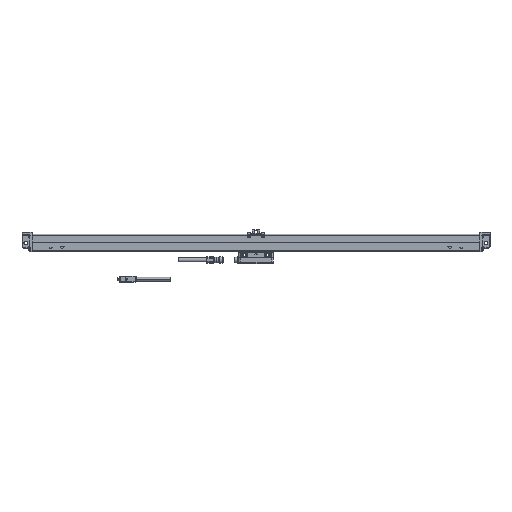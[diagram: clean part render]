
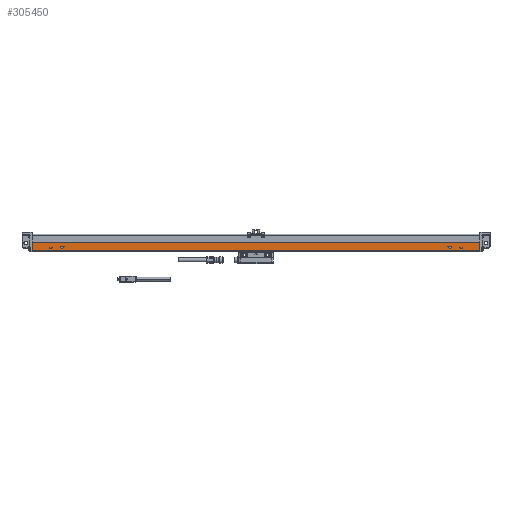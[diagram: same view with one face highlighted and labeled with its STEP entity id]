
A CAD part, top view. The second image highlights one B-rep face of the part: STEP entity #305450.
In plain terms, the highlighted planar face has unit normal (0, 0, 1).
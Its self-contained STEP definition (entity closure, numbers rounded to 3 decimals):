
#267860=CARTESIAN_POINT('',(1574.,62.11,34.29));
#267870=VERTEX_POINT('',#267860);
#268040=CARTESIAN_POINT('',(1577.464,68.11,34.29));
#268050=VERTEX_POINT('',#268040);
#268080=CARTESIAN_POINT('',(1590.535,90.75,34.29));
#268090=DIRECTION('',(0.5,0.866,0.));
#268100=VECTOR('',#268090,1.);
#268110=LINE('',#268080,#268100);
#268120=EDGE_CURVE('',#267870,#268050,#268110,.T.);
#303130=CARTESIAN_POINT('',(2682.,82.01,34.29));
#303140=VERTEX_POINT('',#303130);
#303190=CARTESIAN_POINT('',(2144.,82.01,34.29));
#303200=DIRECTION('',(1.,0.,0.));
#303210=VECTOR('',#303200,1.);
#303220=LINE('',#303190,#303210);
#303230=CARTESIAN_POINT('',(1526.,82.01,34.29));
#303240=VERTEX_POINT('',#303230);
#303250=EDGE_CURVE('',#303240,#303140,#303220,.T.);
#303720=CARTESIAN_POINT('',(2144.,62.01,34.29));
#303730=DIRECTION('',(-0.,0.,1.));
#303740=DIRECTION('',(0.,-1.,0.));
#303750=AXIS2_PLACEMENT_3D('',#303720,#303730,#303740);
#303760=PLANE('',#303750);
#303770=CARTESIAN_POINT('',(2144.,62.01,34.29));
#303780=DIRECTION('',(1.,0.,0.));
#303790=VECTOR('',#303780,1.);
#303800=LINE('',#303770,#303790);
#303810=CARTESIAN_POINT('',(1526.,62.01,34.29));
#303820=VERTEX_POINT('',#303810);
#303830=CARTESIAN_POINT('',(2682.,62.01,34.29));
#303840=VERTEX_POINT('',#303830);
#303850=EDGE_CURVE('',#303820,#303840,#303800,.T.);
#303860=ORIENTED_EDGE('',*,*,#303850,.T.);
#303870=CARTESIAN_POINT('',(1526.,90.75,34.29));
#303880=DIRECTION('',(0.,-1.,0.));
#303890=VECTOR('',#303880,1.);
#303900=LINE('',#303870,#303890);
#303910=EDGE_CURVE('',#303240,#303820,#303900,.T.);
#303920=ORIENTED_EDGE('',*,*,#303910,.T.);
#303930=ORIENTED_EDGE('',*,*,#303250,.F.);
#303940=CARTESIAN_POINT('',(2682.,90.75,34.29));
#303950=DIRECTION('',(0.,1.,0.));
#303960=VECTOR('',#303950,1.);
#303970=LINE('',#303940,#303960);
#303980=EDGE_CURVE('',#303840,#303140,#303970,.T.);
#303990=ORIENTED_EDGE('',*,*,#303980,.T.);
#304000=EDGE_LOOP('',(#303990,#303930,#303920,#303860));
#304010=FACE_OUTER_BOUND('',#304000,.T.);
#304020=CARTESIAN_POINT('',(2650.535,90.75,34.29));
#304030=DIRECTION('',(0.5,0.866,0.));
#304040=VECTOR('',#304030,1.);
#304050=LINE('',#304020,#304040);
#304060=CARTESIAN_POINT('',(2634.,62.11,34.29));
#304070=VERTEX_POINT('',#304060);
#304080=CARTESIAN_POINT('',(2637.464,68.11,34.29));
#304090=VERTEX_POINT('',#304080);
#304100=EDGE_CURVE('',#304070,#304090,#304050,.T.);
#304110=ORIENTED_EDGE('',*,*,#304100,.F.);
#304120=CARTESIAN_POINT('',(2877.,68.11,34.29));
#304130=DIRECTION('',(-1.,0.,0.));
#304140=VECTOR('',#304130,1.);
#304150=LINE('',#304120,#304140);
#304160=CARTESIAN_POINT('',(2635.732,68.11,34.29));
#304170=VERTEX_POINT('',#304160);
#304180=EDGE_CURVE('',#304090,#304170,#304150,.T.);
#304190=ORIENTED_EDGE('',*,*,#304180,.F.);
#304200=CARTESIAN_POINT('',(2648.803,90.75,34.29));
#304210=DIRECTION('',(-0.5,-0.866,-0.));
#304220=VECTOR('',#304210,1.);
#304230=LINE('',#304200,#304220);
#304240=CARTESIAN_POINT('',(2634.,65.11,34.29));
#304250=VERTEX_POINT('',#304240);
#304260=EDGE_CURVE('',#304170,#304250,#304230,.T.);
#304270=ORIENTED_EDGE('',*,*,#304260,.F.);
#304280=CARTESIAN_POINT('',(2619.197,90.75,34.29));
#304290=DIRECTION('',(-0.5,0.866,0.));
#304300=VECTOR('',#304290,1.);
#304310=LINE('',#304280,#304300);
#304320=CARTESIAN_POINT('',(2632.268,68.11,34.29));
#304330=VERTEX_POINT('',#304320);
#304340=EDGE_CURVE('',#304250,#304330,#304310,.T.);
#304350=ORIENTED_EDGE('',*,*,#304340,.F.);
#304360=CARTESIAN_POINT('',(2877.,68.11,34.29));
#304370=DIRECTION('',(-1.,0.,0.));
#304380=VECTOR('',#304370,1.);
#304390=LINE('',#304360,#304380);
#304400=CARTESIAN_POINT('',(2630.536,68.11,34.29));
#304410=VERTEX_POINT('',#304400);
#304420=EDGE_CURVE('',#304330,#304410,#304390,.T.);
#304430=ORIENTED_EDGE('',*,*,#304420,.F.);
#304440=CARTESIAN_POINT('',(2617.465,90.75,34.29));
#304450=DIRECTION('',(0.5,-0.866,0.));
#304460=VECTOR('',#304450,1.);
#304470=LINE('',#304440,#304460);
#304480=EDGE_CURVE('',#304410,#304070,#304470,.T.);
#304490=ORIENTED_EDGE('',*,*,#304480,.F.);
#304500=EDGE_LOOP('',(#304490,#304430,#304350,#304270,#304190,#304110));
#304510=FACE_BOUND('',#304500,.T.);
#304520=CARTESIAN_POINT('',(642.,71.11,34.29));
#304530=DIRECTION('',(-1.,0.,0.));
#304540=VECTOR('',#304530,1.);
#304550=LINE('',#304520,#304540);
#304560=CARTESIAN_POINT('',(2609.196,71.11,34.29));
#304570=VERTEX_POINT('',#304560);
#304580=CARTESIAN_POINT('',(2598.804,71.11,34.29));
#304590=VERTEX_POINT('',#304580);
#304600=EDGE_CURVE('',#304570,#304590,#304550,.T.);
#304610=ORIENTED_EDGE('',*,*,#304600,.F.);
#304620=CARTESIAN_POINT('',(2587.465,90.75,34.29));
#304630=DIRECTION('',(0.5,-0.866,0.));
#304640=VECTOR('',#304630,1.);
#304650=LINE('',#304620,#304640);
#304660=CARTESIAN_POINT('',(2604.,62.11,34.29));
#304670=VERTEX_POINT('',#304660);
#304680=EDGE_CURVE('',#304590,#304670,#304650,.T.);
#304690=ORIENTED_EDGE('',*,*,#304680,.F.);
#304700=CARTESIAN_POINT('',(2620.535,90.75,34.29));
#304710=DIRECTION('',(0.5,0.866,0.));
#304720=VECTOR('',#304710,1.);
#304730=LINE('',#304700,#304720);
#304740=EDGE_CURVE('',#304670,#304570,#304730,.T.);
#304750=ORIENTED_EDGE('',*,*,#304740,.F.);
#304760=EDGE_LOOP('',(#304750,#304690,#304610));
#304770=FACE_BOUND('',#304760,.T.);
#304780=CARTESIAN_POINT('',(1587.465,90.75,34.29));
#304790=DIRECTION('',(0.5,-0.866,0.));
#304800=VECTOR('',#304790,1.);
#304810=LINE('',#304780,#304800);
#304820=CARTESIAN_POINT('',(1598.804,71.11,34.29));
#304830=VERTEX_POINT('',#304820);
#304840=CARTESIAN_POINT('',(1604.,62.11,34.29));
#304850=VERTEX_POINT('',#304840);
#304860=EDGE_CURVE('',#304830,#304850,#304810,.T.);
#304870=ORIENTED_EDGE('',*,*,#304860,.F.);
#304880=CARTESIAN_POINT('',(1620.535,90.75,34.29));
#304890=DIRECTION('',(0.5,0.866,0.));
#304900=VECTOR('',#304890,1.);
#304910=LINE('',#304880,#304900);
#304920=CARTESIAN_POINT('',(1609.196,71.11,34.29));
#304930=VERTEX_POINT('',#304920);
#304940=EDGE_CURVE('',#304850,#304930,#304910,.T.);
#304950=ORIENTED_EDGE('',*,*,#304940,.F.);
#304960=CARTESIAN_POINT('',(2142.,71.11,34.29));
#304970=DIRECTION('',(-1.,0.,0.));
#304980=VECTOR('',#304970,1.);
#304990=LINE('',#304960,#304980);
#305000=EDGE_CURVE('',#304930,#304830,#304990,.T.);
#305010=ORIENTED_EDGE('',*,*,#305000,.F.);
#305020=EDGE_LOOP('',(#305010,#304950,#304870));
#305030=FACE_BOUND('',#305020,.T.);
#305040=ORIENTED_EDGE('',*,*,#268120,.F.);
#305050=CARTESIAN_POINT('',(2177.,68.11,34.29));
#305060=DIRECTION('',(-1.,0.,-0.));
#305070=VECTOR('',#305060,1.);
#305080=LINE('',#305050,#305070);
#305090=CARTESIAN_POINT('',(1575.732,68.11,34.29));
#305100=VERTEX_POINT('',#305090);
#305110=EDGE_CURVE('',#268050,#305100,#305080,.T.);
#305120=ORIENTED_EDGE('',*,*,#305110,.F.);
#305130=CARTESIAN_POINT('',(1588.803,90.75,34.29));
#305140=DIRECTION('',(-0.5,-0.866,-0.));
#305150=VECTOR('',#305140,1.);
#305160=LINE('',#305130,#305150);
#305170=CARTESIAN_POINT('',(1574.,65.11,34.29));
#305180=VERTEX_POINT('',#305170);
#305190=EDGE_CURVE('',#305100,#305180,#305160,.T.);
#305200=ORIENTED_EDGE('',*,*,#305190,.F.);
#305210=CARTESIAN_POINT('',(1559.197,90.75,34.29));
#305220=DIRECTION('',(-0.5,0.866,0.));
#305230=VECTOR('',#305220,1.);
#305240=LINE('',#305210,#305230);
#305250=CARTESIAN_POINT('',(1572.268,68.11,34.29));
#305260=VERTEX_POINT('',#305250);
#305270=EDGE_CURVE('',#305180,#305260,#305240,.T.);
#305280=ORIENTED_EDGE('',*,*,#305270,.F.);
#305290=CARTESIAN_POINT('',(2177.,68.11,34.29));
#305300=DIRECTION('',(-1.,0.,-0.));
#305310=VECTOR('',#305300,1.);
#305320=LINE('',#305290,#305310);
#305330=CARTESIAN_POINT('',(1570.536,68.11,34.29));
#305340=VERTEX_POINT('',#305330);
#305350=EDGE_CURVE('',#305260,#305340,#305320,.T.);
#305360=ORIENTED_EDGE('',*,*,#305350,.F.);
#305370=CARTESIAN_POINT('',(1557.465,90.75,34.29));
#305380=DIRECTION('',(0.5,-0.866,0.));
#305390=VECTOR('',#305380,1.);
#305400=LINE('',#305370,#305390);
#305410=EDGE_CURVE('',#305340,#267870,#305400,.T.);
#305420=ORIENTED_EDGE('',*,*,#305410,.F.);
#305430=EDGE_LOOP('',(#305420,#305360,#305280,#305200,#305120,#305040));
#305440=FACE_BOUND('',#305430,.T.);
#305450=ADVANCED_FACE('',(#304010,#304510,#304770,#305030,#305440),
#303760,.T.);
